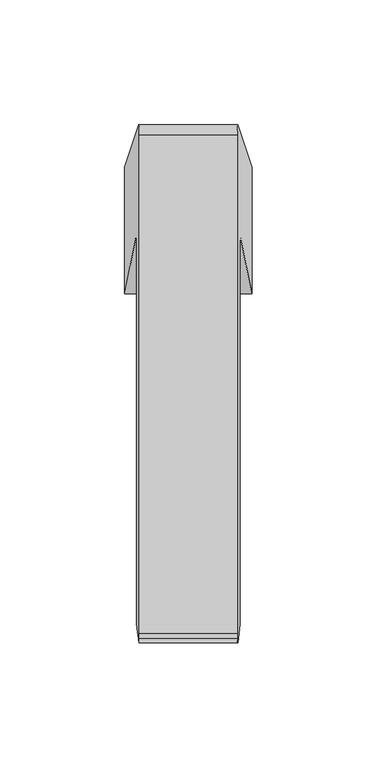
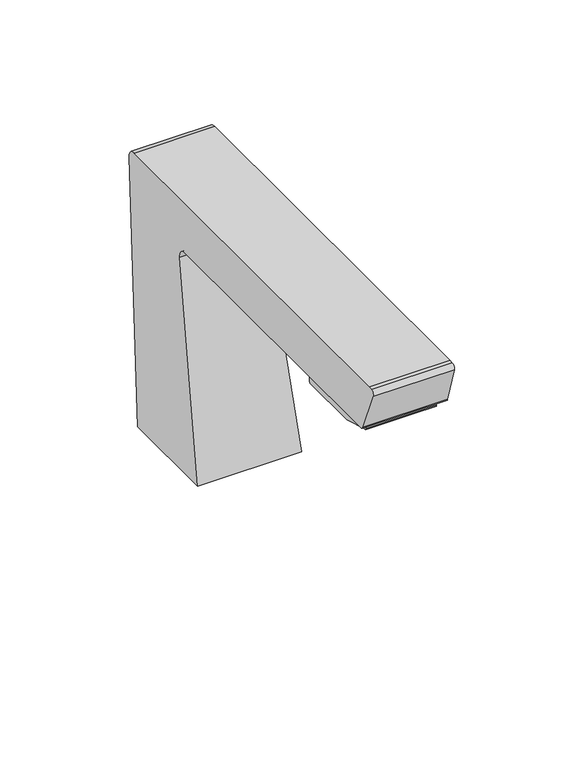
"""IFC4 building model written with IfcOpenShell, lengths in millimetres: flow terminal geometry, Faucet-Bradley_Corp-Deck_Mounted-Verge_Zen_S53-3700 : Verge Zen Series S53-3700."""

from ifc_helpers import new_model, si_unit, point, frame, frame_2d, origin, place, context, project, spatial, polyline, circle_curve, ellipse_curve, trimmed, segment, composite_curve, outline, extrude, source, transform, mapped, element, save
from ifc_brep_helpers import plane_surface, cylinder_surface, revolved_surface, advanced_brep


def flow_terminal_4b3c92f4(model_context):
    return source(origin(), model_context, "Body", "SolidModel", [
        advanced_brep(
        [(20.746001, -160.770856, 107.690489), (20.6914056, -162.5566685, 108.9409283), (-20.6914056, -162.5566685, 108.9409283), (-20.746001, -160.770856, 107.690489), (20.746001, -158.7182978, 107.690489), (-20.746001, -158.7182978, 107.690489), (20.746001, -11.2003057, 107.690489), (-20.746001, -11.2003057, 107.690489), (20.9464583, -7.482403, 103.0992615), (-20.9464583, -7.482403, 103.0992615), (-25.4478692, -30.338959, 0.0), (25.4478692, -30.338959, 0.0), (-25.4478692, 20.338959, 0.0), (25.4478692, 20.338959, 0.0), (-19.8826033, 37.1201165, 127.4655465), (19.8826033, 37.1201165, 127.4655465), (19.6949943, 33.3517894, 131.7625), (-19.6949943, 33.3517894, 131.7625), (19.6949943, -166.0963993, 131.7625), (-19.6949943, -166.0963993, 131.7625), (19.6949943, -168.1489575, 131.7625), (-19.6949943, -168.1489575, 131.7625), (19.8063473, -169.9347699, 129.2120955), (-19.8063473, -169.9347699, 129.2120955)],
        [
            (0, 1, ellipse_curve(frame((20.6630267, -160.770856, 109.5909109), z_axis=(-0.9990482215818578, 0.0, -0.043619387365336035), x_axis=(0.04361938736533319, 0.0, -0.9990482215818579)), 1.9022324, 1.9004219)),
            (1, 2),
            (2, 3, ellipse_curve(frame((-20.6630267, -160.770856, 109.5909109), z_axis=(0.9990482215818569, 0.0, -0.043619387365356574), x_axis=(0.04361938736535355, 0.0, 0.999048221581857)), 1.9022324, 1.9004219)),
            (3, 0),
            (4, 0),
            (3, 5),
            (5, 4),
            (6, 4),
            (5, 7),
            (7, 6),
            (8, 6, ellipse_curve(frame((20.9119546, -11.2003057, 103.8895261), z_axis=(0.9990482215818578, 0.0, 0.043619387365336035), x_axis=(-0.04361938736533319, 0.0, 0.9990482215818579)), 3.8045839, 3.8009628)),
            (7, 9, ellipse_curve(frame((-20.9119546, -11.2003057, 103.8895261), z_axis=(-0.9990482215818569, 0.0, 0.043619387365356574), x_axis=(-0.04361938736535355, 0.0, -0.999048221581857)), 3.8045839, 3.8009628)),
            (9, 8),
            (10, 11),
            (11, 8),
            (9, 10),
            (10, 12),
            (12, 13),
            (13, 11),
            (12, 14),
            (14, 15),
            (15, 13),
            (16, 15, ellipse_curve(frame((19.8437962, 33.7996009, 128.3543762), z_axis=(-0.9990482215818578, 0.0, -0.043619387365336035), x_axis=(0.04361938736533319, 0.0, -0.9990482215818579)), 3.4406928, 3.437418)),
            (14, 17, ellipse_curve(frame((-19.8437962, 33.7996009, 128.3543762), z_axis=(0.9990482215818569, 0.0, -0.043619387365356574), x_axis=(0.04361938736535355, 0.0, 0.999048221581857)), 3.4406928, 3.437418)),
            (17, 16),
            (18, 16),
            (17, 19),
            (19, 18),
            (20, 18),
            (19, 21),
            (21, 20),
            (22, 20, ellipse_curve(frame((19.7779685, -168.1489575, 129.8620781), z_axis=(-0.9990482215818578, 0.0, -0.043619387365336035), x_axis=(0.04361938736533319, 0.0, -0.9990482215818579)), 1.9022324, 1.9004219)),
            (21, 23, ellipse_curve(frame((-19.7779685, -168.1489575, 129.8620781), z_axis=(0.9990482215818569, 0.0, -0.043619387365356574), x_axis=(0.04361938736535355, 0.0, 0.999048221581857)), 1.9022324, 1.9004219)),
            (23, 22),
            (1, 22),
            (23, 2),
        ],
        [
            cylinder_surface(frame((-25.4478692, -160.770856, 109.5909109), z_axis=(1.0, 0.0, 0.0), x_axis=(0.0, 1.0, 0.0)), 1.9004219),
            plane_surface(frame((25.4478692, -160.770856, 107.690489), z_axis=(0.0, 0.0, -1.0), x_axis=(-1.0, 0.0, 0.0))),
            plane_surface(frame((25.4478692, -158.7182978, 107.690489), z_axis=(0.0, 0.0, -1.0), x_axis=(-1.0, 0.0, 0.0))),
            revolved_surface(polyline([(-21.077908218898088, -7.399342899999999, 103.8895261), (21.07790821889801, -7.399342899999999, 103.8895261)]), (-25.4478692, -11.2003057, 103.8895261), (-1.0, 0.0, 0.0)),
            plane_surface(frame((25.4478692, -7.482403, 103.0992615), z_axis=(0.0, -0.9762960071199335, 0.21643961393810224), x_axis=(-1.0, 0.0, 0.0))),
            plane_surface(frame((25.4478692, -30.338959, 0.0), z_axis=(0.0, 0.0, -1.0), x_axis=(-1.0, 0.0, 0.0))),
            plane_surface(frame((25.4478692, 20.338959, 0.0), z_axis=(0.0, 0.9914448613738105, -0.1305261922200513), x_axis=(-1.0, 0.0, 0.0))),
            cylinder_surface(frame((-25.4478692, 33.7996009, 128.3543762), z_axis=(1.0, 0.0, 0.0), x_axis=(0.0, 1.0, 0.0)), 3.437418),
            plane_surface(frame((25.4478692, 33.3517894, 131.7625), z_axis=(0.0, 0.0, 1.0), x_axis=(-1.0, 0.0, 0.0))),
            plane_surface(frame((25.4478692, -166.0963993, 131.7625), z_axis=(0.0, 0.0, 1.0), x_axis=(-1.0, 0.0, 0.0))),
            cylinder_surface(frame((-25.4478692, -168.1489575, 129.8620781), z_axis=(1.0, 0.0, 0.0), x_axis=(0.0, 1.0, 0.0)), 1.9004219),
            plane_surface(frame((25.4478692, -169.9347699, 129.2120955), z_axis=(0.0, -0.9396926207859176, -0.34202014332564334), x_axis=(-1.0, 0.0, 0.0))),
            plane_surface(frame((19.3469212, -190.5743906, 139.7346842), z_axis=(0.9990482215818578, 0.0, 0.043619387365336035), x_axis=(0.0, 1.0, 0.0))),
            plane_surface(frame((-25.4478692, -190.5743906, 0.0), z_axis=(-0.9990482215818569, 0.0, 0.043619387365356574), x_axis=(0.0, 1.0, 0.0))),
        ],
        [
            (0, [[1, 2, 3, 4]]),
            (1, [[5, -4, 6, 7]]),
            (2, [[8, -7, 9, 10]]),
            (3, [[11, -10, 12, 13]]),
            (4, [[14, 15, -13, 16]]),
            (5, [[-14, 17, 18, 19]]),
            (6, [[-18, 20, 21, 22]]),
            (7, [[23, -21, 24, 25]]),
            (8, [[26, -25, 27, 28]]),
            (9, [[29, -28, 30, 31]]),
            (10, [[32, -31, 33, 34]]),
            (11, [[35, -34, 36, -2]]),
            (12, [[-1, -5, -8, -11, -15, -19, -22, -23, -26, -29, -32, -35]]),
            (13, [[-3, -36, -33, -30, -27, -24, -20, -17, -16, -12, -9, -6]]),
        ],
    ),
        extrude(outline(composite_curve([segment(polyline([(-159.0077203, 104.9178152), (-159.0561175, 107.690489), (-111.0421826, 107.690489), (-111.1673891, 100.5174166)]), True, "CONTINUOUS"), segment(trimmed(circle_curve(frame_2d((-111.9310699, 100.5307467)), 0.7637972), [point((-111.1673891, 100.5174166))], [point((-111.9310699, 99.7669496))], False, "CARTESIAN"), True, "CONTINUOUS"), segment(polyline([(-111.9310699, 99.7669496), (-143.0053706, 99.7669496), (-158.4545705, 104.1969364)]), True, "CONTINUOUS"), segment(trimmed(circle_curve(frame_2d((-158.2440395, 104.9311453)), 0.7637972), [point((-158.4545705, 104.1969364))], [point((-159.0077203, 104.9178152))], False, "CARTESIAN"), True, "CONTINUOUS")], self_intersect=False)), frame((-17.2185629, 0.0, 0.0), z_axis=(1.0, 0.0, 0.0), x_axis=(0.0, 1.0, 0.0)), (0.0, 0.0, 1.0), 34.4371258),
        advanced_brep(
        [(0.0, -134.6456987, 96.5723736), (0.0, -119.4978764, 96.5723736), (0.0, -127.0717875, 96.5723736), (0.0, -134.6469881, 98.0491247), (0.0, -119.4965869, 98.0491247), (0.0, -135.5013374, 98.0491247), (0.0, -118.6422376, 98.0491247), (0.0, -136.4728153, 99.0773269), (0.0, -117.6707597, 99.0773269), (0.0, -136.4728153, 99.9232123), (0.0, -117.6707597, 99.9232123), (0.0, -127.0679929, 99.9232123)],
        [
            (0, 1, circle_curve(frame((0.0, -127.0717875, 96.5723736), z_axis=(0.0, 0.0, -1.0), x_axis=(0.0, 1.0000000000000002, 0.0)), 7.5739112)),
            (1, 2),
            (2, 0),
            (1, 0, circle_curve(frame((0.0, -127.0717875, 96.5723736), z_axis=(0.0, 0.0, -1.0), x_axis=(0.0, 1.0000000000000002, 0.0)), 7.5739112)),
            (3, 4, circle_curve(frame((0.0, -127.0717875, 98.0491247), z_axis=(0.0, 0.0, -1.0), x_axis=(0.0, 1.0000000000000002, 0.0)), 7.5752006)),
            (4, 1),
            (0, 3),
            (4, 3, circle_curve(frame((0.0, -127.0717875, 98.0491247), z_axis=(0.0, 0.0, -1.0), x_axis=(0.0, 1.0000000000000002, 0.0)), 7.5752006)),
            (5, 6, circle_curve(frame((0.0, -127.0717875, 98.0491247), z_axis=(0.0, 0.0, -1.0), x_axis=(0.0, 1.0000000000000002, 0.0)), 8.4295499)),
            (6, 4),
            (3, 5),
            (6, 5, circle_curve(frame((0.0, -127.0717875, 98.0491247), z_axis=(0.0, 0.0, -1.0), x_axis=(0.0, 1.0000000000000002, 0.0)), 8.4295499)),
            (7, 8, circle_curve(frame((0.0, -127.0717875, 99.0773269), z_axis=(0.0, 0.0, -1.0), x_axis=(0.0, 1.0000000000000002, 0.0)), 9.4010278)),
            (8, 6, circle_curve(frame((0.0, -118.6731182, 99.0773269), z_axis=(-1.0000000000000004, 0.0, 0.0), x_axis=(0.0, 0.9848077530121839, 0.17364817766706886)), 1.0023585)),
            (5, 7, circle_curve(frame((0.0, -135.4704568, 99.0773269), z_axis=(-1.0000000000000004, 0.0, 0.0), x_axis=(0.0, -0.9848077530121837, 0.17364817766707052)), 1.0023585)),
            (8, 7, circle_curve(frame((0.0, -127.0717875, 99.0773269), z_axis=(0.0, 0.0, -1.0), x_axis=(0.0, 1.0000000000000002, 0.0)), 9.4010278)),
            (9, 10, circle_curve(frame((0.0, -127.0717875, 99.9232123), z_axis=(0.0, 0.0, -1.0), x_axis=(0.0, 1.0000000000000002, 0.0)), 9.4010278)),
            (10, 8),
            (7, 9),
            (10, 9, circle_curve(frame((0.0, -127.0717875, 99.9232123), z_axis=(0.0, 0.0, -1.0), x_axis=(0.0, 1.0000000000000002, 0.0)), 9.4010278)),
            (11, 10),
            (9, 11),
        ],
        [
            plane_surface(frame((0.0, -127.0717875, 96.5723736), z_axis=(0.0, 0.0, -1.0), x_axis=(0.0, 1.0, 0.0))),
            cylinder_surface(frame((0.0, -127.0717875, 99.7669496), z_axis=(0.0, 0.0, 1.0), x_axis=(0.0, 1.0000000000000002, 0.0)), 7.5752006),
            plane_surface(frame((0.0, -127.0717875, 98.0491247), z_axis=(0.0, 0.0, -1.0), x_axis=(0.0, 1.0, 0.0))),
            revolved_surface(trimmed(ellipse_curve(frame((0.0, -118.6731182, 99.0773269), z_axis=(1.0000000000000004, 0.0, 0.0), x_axis=(0.0, 0.9848077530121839, 0.17364817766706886)), 1.0023585, 1.0023585), [point((0.0, -118.6422787, 98.075443))], [point((0.0, -117.6707597, 99.0773269))], True, "CARTESIAN"), (0.0, -127.0717875, 99.7669496), (0.0, 0.0, 1.0)),
            revolved_surface(trimmed(ellipse_curve(frame((0.0, -118.6731182, 99.0773269), z_axis=(1.0000000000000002, 0.0, 0.0), x_axis=(0.0, 0.9848077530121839, 0.1736481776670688)), 1.0023585, 1.0023585), [point((0.0, -118.6422787, 98.075443))], [point((0.0, -117.6707597, 99.0773269))], True, "CARTESIAN"), (0.0, -127.0717875, 99.7669496), (0.0, 0.0, 1.0)),
            cylinder_surface(frame((0.0, -127.0717875, 99.7669496), z_axis=(0.0, 0.0, 1.0), x_axis=(0.0, 1.0000000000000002, 0.0)), 9.4010278),
            plane_surface(frame((0.0, -127.0717875, 99.9232123), z_axis=(0.0, 0.0, 1.0), x_axis=(0.0, 1.0, 0.0))),
        ],
        [
            (0, [[1, 2, 3]]),
            (0, [[4, -3, -2]]),
            (1, [[5, 6, -1, 7]]),
            (1, [[8, -7, -4, -6]]),
            (2, [[9, 10, -5, 11]]),
            (2, [[12, -11, -8, -10]]),
            (3, [[13, 14, -9, 15]]),
            (4, [[16, -15, -12, -14]]),
            (5, [[17, 18, -13, 19]]),
            (5, [[20, -19, -16, -18]]),
            (6, [[21, -17, 22]]),
            (6, [[-22, -20, -21]]),
        ],
    ),
    ])


if __name__ == "__main__":
    model = new_model("IFC4")
    model_context = context("Model", 3, world=origin())
    ifc_project = project(units=[si_unit("LENGTHUNIT", "METRE", prefix="MILLI")], contexts=[model_context])
    site = spatial("IfcSite", under=ifc_project)
    building = spatial("IfcBuilding", under=site)
    placement = place(None, origin())
    flow_terminal_shape = flow_terminal_4b3c92f4(model_context)
    element("IfcFlowTerminal", 1, ObjectType="Faucet-Bradley_Corp-Deck_Mounted-Verge_Zen_S53-3700 : Verge Zen Series S53-3700", at=placement, inside=building, context=model_context, shape_type="MappedRepresentation", body=[
        mapped(flow_terminal_shape, transform((0.0, 0.0, 0.0), x_axis=(1.0, 0.0, 0.0), y_axis=(0.0, 1.0, 0.0), z_axis=(0.0, 0.0, 1.0))),
    ])
    save(model, "model.ifc")
